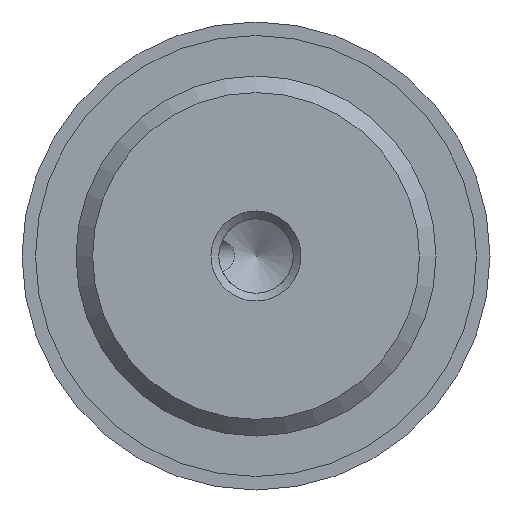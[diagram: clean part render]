
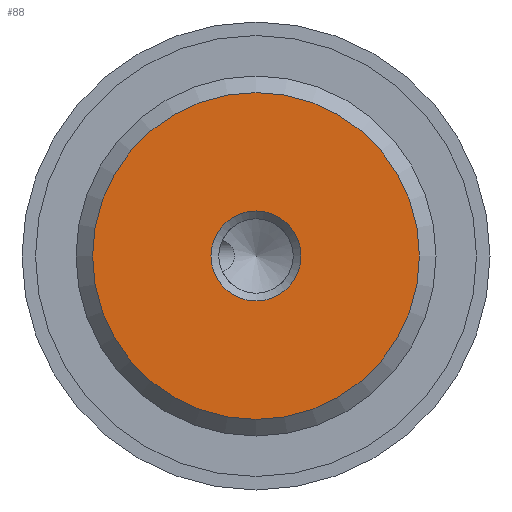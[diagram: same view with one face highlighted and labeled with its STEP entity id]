
A CAD part, front view. The second image highlights one B-rep face of the part: STEP entity #88.
In plain terms, the highlighted planar face has unit normal (0, -1, 0).
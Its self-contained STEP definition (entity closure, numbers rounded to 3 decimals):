
#88 = ADVANCED_FACE( '', ( #136, #137 ), #138, .F. );
#136 = FACE_BOUND( '', #202, .T. );
#137 = FACE_OUTER_BOUND( '', #203, .T. );
#138 = PLANE( '', #204 );
#202 = EDGE_LOOP( '', ( #316 ) );
#203 = EDGE_LOOP( '', ( #317 ) );
#204 = AXIS2_PLACEMENT_3D( '', #318, #319, #320 );
#316 = ORIENTED_EDGE( '', *, *, #434, .F. );
#317 = ORIENTED_EDGE( '', *, *, #435, .T. );
#318 = CARTESIAN_POINT( '', ( 9.08, 0., 0. ) );
#319 = DIRECTION( '', ( 0., 1., 0. ) );
#320 = DIRECTION( '', ( 0., 0., 1. ) );
#434 = EDGE_CURVE( '', #503, #503, #504, .T. );
#435 = EDGE_CURVE( '', #505, #505, #506, .T. );
#503 = VERTEX_POINT( '', #700 );
#504 = CIRCLE( '', #701, 2.5 );
#505 = VERTEX_POINT( '', #702 );
#506 = CIRCLE( '', #703, 9.08 );
#700 = CARTESIAN_POINT( '', ( 2.5, 0., 0. ) );
#701 = AXIS2_PLACEMENT_3D( '', #778, #779, #780 );
#702 = CARTESIAN_POINT( '', ( 0., 0., -9.08 ) );
#703 = AXIS2_PLACEMENT_3D( '', #781, #782, #783 );
#778 = CARTESIAN_POINT( '', ( 0., 0., 0. ) );
#779 = DIRECTION( '', ( 0., -1., 0. ) );
#780 = DIRECTION( '', ( 1., 0., 0. ) );
#781 = CARTESIAN_POINT( '', ( 0., 0., 0. ) );
#782 = DIRECTION( '', ( 0., -1., 0. ) );
#783 = DIRECTION( '', ( 0., 0., -1. ) );
